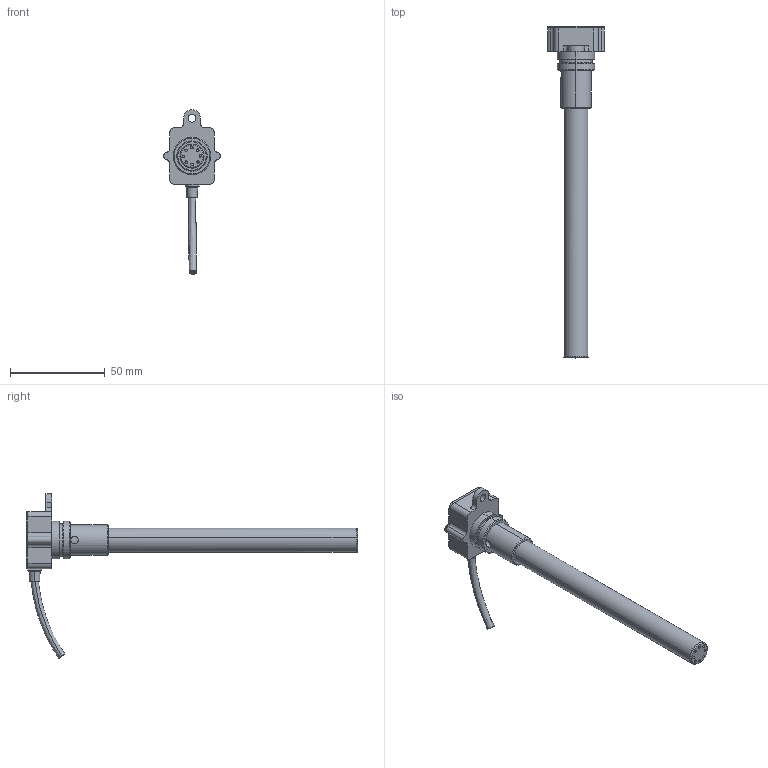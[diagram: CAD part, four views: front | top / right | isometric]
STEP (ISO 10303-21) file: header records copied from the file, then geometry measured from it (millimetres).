
FILE_DESCRIPTION (( 'STEP AP203' ), '1' );
FILE_NAME ('618-1001 - 1 Hole Variant_defeature.STEP', '2024-04-23T17:13:10', ( '' ), ( '' ), 'SwSTEP 2.0', 'SolidWorks 2023', '' );
FILE_SCHEMA (( 'CONFIG_CONTROL_DESIGN' ));
Length unit declared in the file: millimetre
Products named in the file (1): 618-1001 - 1 Hole Variant_defeature
Bounding box: 30 x 175.5 x 86.99 mm (x, y, z)
Volume: 29812.3 mm3; surface area: 13238.5 mm2
Topology: 2 solids, 2 shells, 156 faces, 375 edges, 240 vertices
Faces by surface type: cylinder 76, plane 62, cone 8, torus 7, bspline 3
Entity records: 5010 total; most frequent: CARTESIAN_POINT 1168, DIRECTION 840, ORIENTED_EDGE 750, EDGE_CURVE 375, AXIS2_PLACEMENT_3D 320, VERTEX_POINT 240, VECTOR 200, LINE 200
